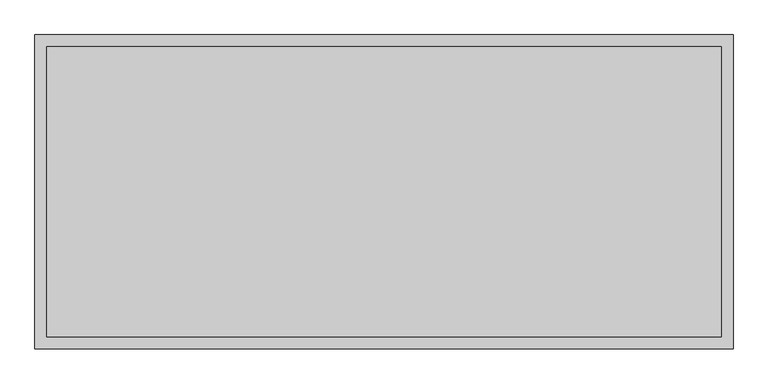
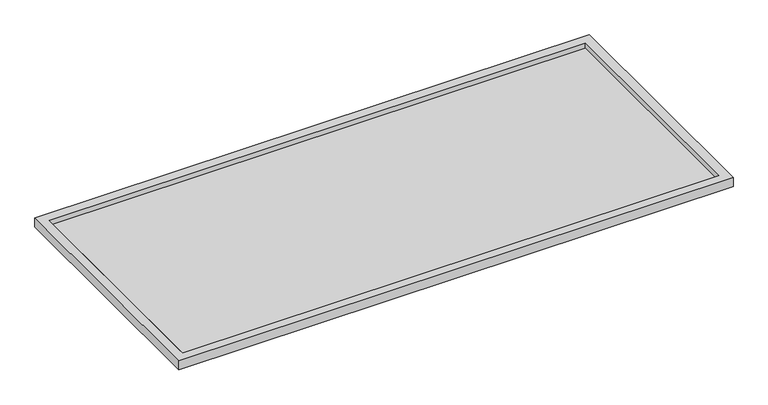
"""IFC4 building model written with IfcOpenShell, lengths in millimetres: proxy geometry, PLATO DE DUCHA : Plato de Ducha 135x300 cm."""

from ifc_helpers import new_model, si_unit, frame, origin, place, context, project, spatial, polyline, outline, extrude, faceted_brep, source, transform, mapped, element, save


def generic_models_048bb886(model_context):
    return source(origin(), model_context, "Body", "SolidModel", [
        extrude(outline(polyline([(-1450.0, 625.0), (1450.0, 625.0), (1450.0, -625.0), (-1450.0, -625.0), (-1450.0, 625.0)])), frame((0.0, 0.0, 20.0), z_axis=(0.0, 0.0, 1.0), x_axis=(1.0, 0.0, 0.0)), (0.0, 0.0, 1.0), 1.9779388),
        faceted_brep([(1500.0, 675.0, 0.0), (1500.0, 675.0, 50.0), (1500.0, -675.0, 50.0), (1500.0, -675.0, 0.0), (1497.5, 672.5, 47.5), (1497.5, 672.5, 0.0), (1497.5, -672.5, 0.0), (1497.5, -672.5, 47.5), (1452.5, 627.5, 20.0), (1452.5, 627.5, 47.5), (1452.5, -627.5, 47.5), (1452.5, -627.5, 20.0), (1450.0, 625.0, 50.0), (1450.0, 625.0, 20.0), (1450.0, -625.0, 20.0), (1450.0, -625.0, 50.0), (-1500.0, -675.0, 50.0), (-1500.0, -675.0, 0.0), (-1497.5, -672.5, 0.0), (-1497.5, -672.5, 47.5), (-1452.5, -627.5, 47.5), (-1452.5, -627.5, 20.0), (-1450.0, -625.0, 20.0), (-1450.0, -625.0, 50.0), (-1500.0, 675.0, 50.0), (-1500.0, 675.0, 0.0), (-1497.5, 672.5, 0.0), (-1497.5, 672.5, 47.5), (-1452.5, 627.5, 47.5), (-1452.5, 627.5, 20.0), (-1450.0, 625.0, 20.0), (-1450.0, 625.0, 50.0)], [[[0, 1, 2, 3]], [[4, 5, 6, 7]], [[8, 9, 10, 11]], [[12, 13, 14, 15]], [[3, 2, 16, 17]], [[7, 6, 18, 19]], [[11, 10, 20, 21]], [[15, 14, 22, 23]], [[17, 16, 24, 25]], [[19, 18, 26, 27]], [[21, 20, 28, 29]], [[23, 22, 30, 31]], [[25, 24, 1, 0]], [[3, 17, 25, 0], [5, 26, 18, 6]], [[27, 26, 5, 4]], [[7, 19, 27, 4], [9, 28, 20, 10]], [[29, 28, 9, 8]], [[11, 21, 29, 8], [13, 30, 22, 14]], [[31, 30, 13, 12]], [[1, 24, 16, 2], [15, 23, 31, 12]]]),
    ])


if __name__ == "__main__":
    model = new_model("IFC4")
    model_context = context("Model", 3, world=origin())
    ifc_project = project(units=[si_unit("LENGTHUNIT", "METRE", prefix="MILLI")], contexts=[model_context])
    site = spatial("IfcSite", under=ifc_project)
    building = spatial("IfcBuilding", under=site)
    placement = place(None, origin())
    generic_models_shape = generic_models_048bb886(model_context)
    element("IfcBuildingElementProxy", 1, Name="PLATO DE DUCHA : Plato de Ducha 135x300 cm", ObjectType="PLATO DE DUCHA : Plato de Ducha 135x300 cm", at=placement, inside=building, context=model_context, shape_type="MappedRepresentation", body=[
        mapped(generic_models_shape, transform((0.0, 0.0, 0.0), x_axis=(1.0, 0.0, 0.0), y_axis=(0.0, 1.0, 0.0), z_axis=(0.0, 0.0, 1.0))),
    ])
    save(model, "model.ifc")
